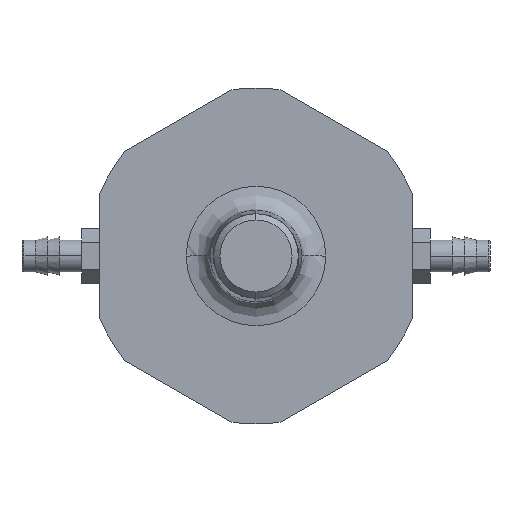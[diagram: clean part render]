
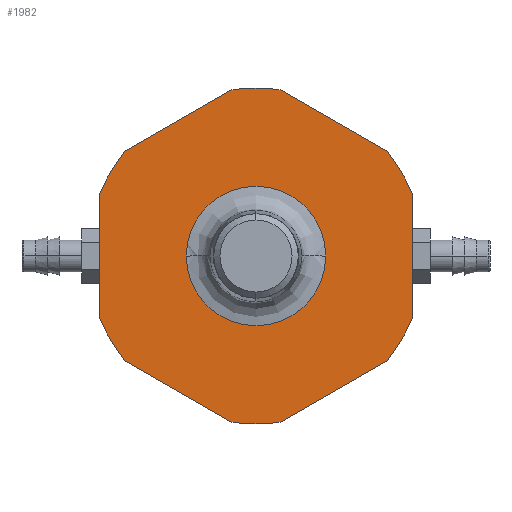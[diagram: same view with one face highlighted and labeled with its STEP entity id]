
A CAD part, left-side view. The second image highlights one B-rep face of the part: STEP entity #1982.
In plain terms, the highlighted planar face has unit normal (-1, 0, 0).
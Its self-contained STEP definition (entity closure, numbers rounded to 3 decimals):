
#1375=CARTESIAN_POINT('',(-2.875,0.363,0.));
#1376=VERTEX_POINT('',#1375);
#1386=CARTESIAN_POINT('',(-2.875,-0.363,0.));
#1387=VERTEX_POINT('',#1386);
#1388=CARTESIAN_POINT('',(-2.875,0.0,0.0));
#1389=DIRECTION('',(-1.0,0.0,0.0));
#1390=DIRECTION('',(0.0,0.0,1.0));
#1391=AXIS2_PLACEMENT_3D('',#1388,#1389,#1390);
#1392=CIRCLE('',#1391,0.363);
#1393=EDGE_CURVE('',#1376,#1387,#1392,.T.);
#1460=CARTESIAN_POINT('',(-2.875,-0.688,-0.541));
#1461=VERTEX_POINT('',#1460);
#1468=CARTESIAN_POINT('',(-2.875,-0.125,-0.866));
#1469=VERTEX_POINT('',#1468);
#1470=CARTESIAN_POINT('',(-2.875,-0.688,-0.541));
#1471=DIRECTION('',(0.0,0.866,-0.5));
#1472=VECTOR('',#1471,0.65);
#1473=LINE('',#1470,#1472);
#1474=EDGE_CURVE('',#1461,#1469,#1473,.T.);
#1499=CARTESIAN_POINT('',(-2.875,-0.813,-0.325));
#1500=VERTEX_POINT('',#1499);
#1507=CARTESIAN_POINT('',(-2.875,0.,0.0));
#1508=DIRECTION('',(1.0,0.0,0.0));
#1509=DIRECTION('',(0.0,-0.866,-0.5));
#1510=AXIS2_PLACEMENT_3D('',#1507,#1508,#1509);
#1511=CIRCLE('',#1510,0.875);
#1512=EDGE_CURVE('',#1500,#1461,#1511,.T.);
#1531=CARTESIAN_POINT('',(-2.875,-0.813,0.325));
#1532=VERTEX_POINT('',#1531);
#1539=CARTESIAN_POINT('',(-2.875,-0.813,0.325));
#1540=DIRECTION('',(0.0,0.0,-1.0));
#1541=VECTOR('',#1540,0.65);
#1542=LINE('',#1539,#1541);
#1543=EDGE_CURVE('',#1532,#1500,#1542,.T.);
#1563=CARTESIAN_POINT('',(-2.875,-0.688,0.541));
#1564=VERTEX_POINT('',#1563);
#1571=CARTESIAN_POINT('',(-2.875,0.0,0.0));
#1572=DIRECTION('',(1.0,0.0,0.0));
#1573=DIRECTION('',(0.0,-0.866,0.5));
#1574=AXIS2_PLACEMENT_3D('',#1571,#1572,#1573);
#1575=CIRCLE('',#1574,0.875);
#1576=EDGE_CURVE('',#1564,#1532,#1575,.T.);
#1595=CARTESIAN_POINT('',(-2.875,-0.125,0.866));
#1596=VERTEX_POINT('',#1595);
#1603=CARTESIAN_POINT('',(-2.875,-0.125,0.866));
#1604=DIRECTION('',(0.0,-0.866,-0.5));
#1605=VECTOR('',#1604,0.65);
#1606=LINE('',#1603,#1605);
#1607=EDGE_CURVE('',#1596,#1564,#1606,.T.);
#1627=CARTESIAN_POINT('',(-2.875,0.125,0.866));
#1628=VERTEX_POINT('',#1627);
#1635=CARTESIAN_POINT('',(-2.875,0.,0.0));
#1636=DIRECTION('',(1.0,0.0,0.0));
#1637=DIRECTION('',(0.0,0.0,1.0));
#1638=AXIS2_PLACEMENT_3D('',#1635,#1636,#1637);
#1639=CIRCLE('',#1638,0.875);
#1640=EDGE_CURVE('',#1628,#1596,#1639,.T.);
#1659=CARTESIAN_POINT('',(-2.875,0.687,0.541));
#1660=VERTEX_POINT('',#1659);
#1667=CARTESIAN_POINT('',(-2.875,0.687,0.541));
#1668=DIRECTION('',(0.0,-0.866,0.5));
#1669=VECTOR('',#1668,0.65);
#1670=LINE('',#1667,#1669);
#1671=EDGE_CURVE('',#1660,#1628,#1670,.T.);
#1691=CARTESIAN_POINT('',(-2.875,0.812,0.325));
#1692=VERTEX_POINT('',#1691);
#1699=CARTESIAN_POINT('',(-2.875,0.,0.0));
#1700=DIRECTION('',(1.0,0.0,0.0));
#1701=DIRECTION('',(0.0,0.866,0.5));
#1702=AXIS2_PLACEMENT_3D('',#1699,#1700,#1701);
#1703=CIRCLE('',#1702,0.875);
#1704=EDGE_CURVE('',#1692,#1660,#1703,.T.);
#1723=CARTESIAN_POINT('',(-2.875,0.812,-0.325));
#1724=VERTEX_POINT('',#1723);
#1731=CARTESIAN_POINT('',(-2.875,0.812,-0.325));
#1732=DIRECTION('',(0.0,0.0,1.0));
#1733=VECTOR('',#1732,0.65);
#1734=LINE('',#1731,#1733);
#1735=EDGE_CURVE('',#1724,#1692,#1734,.T.);
#1755=CARTESIAN_POINT('',(-2.875,0.687,-0.541));
#1756=VERTEX_POINT('',#1755);
#1763=CARTESIAN_POINT('',(-2.875,0.,0.0));
#1764=DIRECTION('',(1.0,0.0,0.0));
#1765=DIRECTION('',(0.0,0.866,-0.5));
#1766=AXIS2_PLACEMENT_3D('',#1763,#1764,#1765);
#1767=CIRCLE('',#1766,0.875);
#1768=EDGE_CURVE('',#1756,#1724,#1767,.T.);
#1787=CARTESIAN_POINT('',(-2.875,0.125,-0.866));
#1788=VERTEX_POINT('',#1787);
#1795=CARTESIAN_POINT('',(-2.875,0.125,-0.866));
#1796=DIRECTION('',(0.0,0.866,0.5));
#1797=VECTOR('',#1796,0.65);
#1798=LINE('',#1795,#1797);
#1799=EDGE_CURVE('',#1788,#1756,#1798,.T.);
#1818=CARTESIAN_POINT('',(-2.875,0.,0.0));
#1819=DIRECTION('',(1.0,0.0,0.0));
#1820=DIRECTION('',(0.0,0.0,-1.0));
#1821=AXIS2_PLACEMENT_3D('',#1818,#1819,#1820);
#1822=CIRCLE('',#1821,0.875);
#1823=EDGE_CURVE('',#1469,#1788,#1822,.T.);
#1926=CARTESIAN_POINT('',(-2.875,0.0,0.363));
#1927=VERTEX_POINT('',#1926);
#1928=CARTESIAN_POINT('',(-2.875,0.0,0.0));
#1929=DIRECTION('',(-1.0,0.0,0.0));
#1930=DIRECTION('',(0.0,0.0,1.0));
#1931=AXIS2_PLACEMENT_3D('',#1928,#1929,#1930);
#1932=CIRCLE('',#1931,0.363);
#1933=EDGE_CURVE('',#1387,#1927,#1932,.T.);
#1935=CARTESIAN_POINT('',(-2.875,0.0,0.0));
#1936=DIRECTION('',(-1.0,0.0,0.0));
#1937=DIRECTION('',(0.0,0.0,1.0));
#1938=AXIS2_PLACEMENT_3D('',#1935,#1936,#1937);
#1939=CIRCLE('',#1938,0.363);
#1940=EDGE_CURVE('',#1927,#1376,#1939,.T.);
#1958=CARTESIAN_POINT('',(-2.875,0.,0.0));
#1959=DIRECTION('',(-1.0,0.0,0.0));
#1960=DIRECTION('',(0.0,0.0,1.0));
#1961=AXIS2_PLACEMENT_3D('',#1958,#1959,#1960);
#1962=PLANE('',#1961);
#1963=ORIENTED_EDGE('',*,*,#1823,.F.);
#1964=ORIENTED_EDGE('',*,*,#1474,.F.);
#1965=ORIENTED_EDGE('',*,*,#1512,.F.);
#1966=ORIENTED_EDGE('',*,*,#1543,.F.);
#1967=ORIENTED_EDGE('',*,*,#1576,.F.);
#1968=ORIENTED_EDGE('',*,*,#1607,.F.);
#1969=ORIENTED_EDGE('',*,*,#1640,.F.);
#1970=ORIENTED_EDGE('',*,*,#1671,.F.);
#1971=ORIENTED_EDGE('',*,*,#1704,.F.);
#1972=ORIENTED_EDGE('',*,*,#1735,.F.);
#1973=ORIENTED_EDGE('',*,*,#1768,.F.);
#1974=ORIENTED_EDGE('',*,*,#1799,.F.);
#1975=EDGE_LOOP('',(#1963,#1964,#1965,#1966,#1967,#1968,#1969,#1970,#1971,#1972,#1973,#1974));
#1976=FACE_OUTER_BOUND('',#1975,.T.);
#1977=ORIENTED_EDGE('',*,*,#1940,.F.);
#1978=ORIENTED_EDGE('',*,*,#1933,.F.);
#1979=ORIENTED_EDGE('',*,*,#1393,.F.);
#1980=EDGE_LOOP('',(#1977,#1978,#1979));
#1981=FACE_BOUND('',#1980,.T.);
#1982=ADVANCED_FACE('',(#1976,#1981),#1962,.T.);
